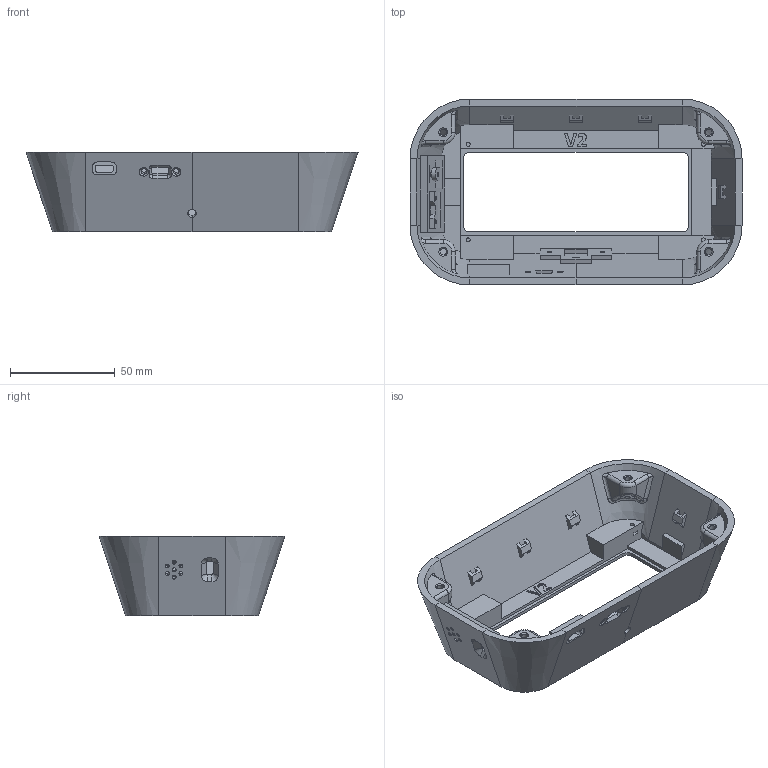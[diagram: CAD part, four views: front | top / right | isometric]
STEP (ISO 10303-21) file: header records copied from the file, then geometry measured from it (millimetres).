
FILE_DESCRIPTION (( 'STEP AP214' ), '1' );
FILE_NAME ('Front Case - Wall Clock V2.STEP', '2022-01-29T17:12:33', ( '' ), ( '' ), 'SwSTEP 2.0', 'SolidWorks 2019', '' );
FILE_SCHEMA (( 'AUTOMOTIVE_DESIGN' ));
Length unit declared in the file: inch
Products named in the file (1): Front Case - Wall Clock V2
Bounding box: 158.75 x 88.9 x 38.1 mm (x, y, z)
Volume: 76494.3 mm3; surface area: 45269.3 mm2
Topology: 1 solids, 1 shells, 486 faces, 1293 edges, 822 vertices
Faces by surface type: plane 292, cylinder 99, bspline 57, cone 34, torus 4
Entity records: 18135 total; most frequent: CARTESIAN_POINT 6252, ORIENTED_EDGE 2586, DIRECTION 2260, EDGE_CURVE 1293, VECTOR 854, LINE 854, VERTEX_POINT 822, AXIS2_PLACEMENT_3D 703
